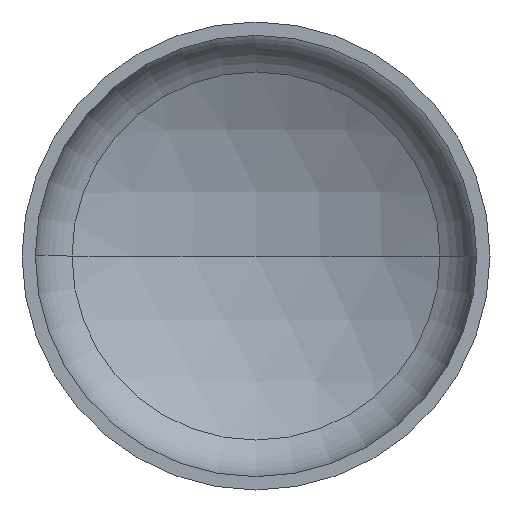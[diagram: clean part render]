
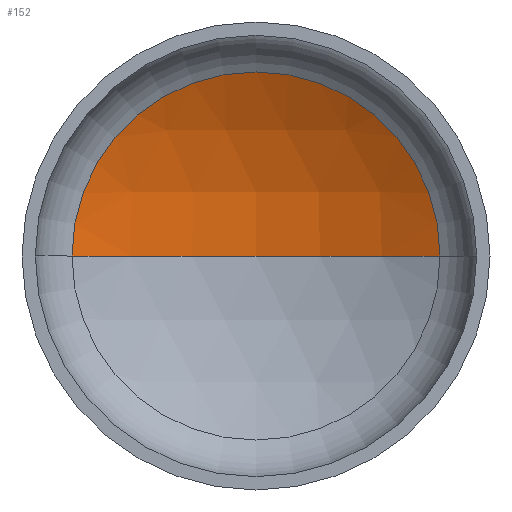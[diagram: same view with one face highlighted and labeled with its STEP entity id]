
A CAD part, front view. The second image highlights one B-rep face of the part: STEP entity #152.
In plain terms, the highlighted spherical face has radius 2080 mm.
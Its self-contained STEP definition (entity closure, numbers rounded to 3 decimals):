
#15 = AXIS2_PLACEMENT_3D ( 'NONE', #349, #216, #372 ) ;
#22 = AXIS2_PLACEMENT_3D ( 'NONE', #283, #137, #305 ) ;
#52 = AXIS2_PLACEMENT_3D ( 'NONE', #364, #230, #390 ) ;
#54 = AXIS2_PLACEMENT_3D ( 'NONE', #370, #233, #396 ) ;
#61 = FACE_OUTER_BOUND ( 'NONE', #116, .T. ) ;
#65 = VERTEX_POINT ( 'NONE', #180 ) ;
#70 = VERTEX_POINT ( 'NONE', #205 ) ;
#75 = ORIENTED_EDGE ( 'NONE', *, *, #327, .T. ) ;
#113 = ORIENTED_EDGE ( 'NONE', *, *, #340, .T. ) ;
#116 = EDGE_LOOP ( 'NONE', ( #128, #75, #113 ) ) ;
#126 = VERTEX_POINT ( 'NONE', #181 ) ;
#128 = ORIENTED_EDGE ( 'NONE', *, *, #333, .F. ) ;
#137 = DIRECTION ( 'NONE',  ( 0., 0., 1. ) ) ;
#152 = ADVANCED_FACE ( 'NONE', ( #61 ), #360, .F. ) ;
#180 = CARTESIAN_POINT ( 'NONE',  ( 0., 737.084, 0. ) ) ;
#181 = CARTESIAN_POINT ( 'NONE',  ( 1022.667, 468.313, 0. ) ) ;
#205 = CARTESIAN_POINT ( 'NONE',  ( -1022.667, 468.313, 0. ) ) ;
#216 = DIRECTION ( 'NONE',  ( 0., -1., 0. ) ) ;
#230 = DIRECTION ( 'NONE',  ( 0., 0., -1. ) ) ;
#233 = DIRECTION ( 'NONE',  ( 0., 0., -1. ) ) ;
#271 = CIRCLE ( 'NONE', #15, 1022.667 ) ;
#283 = CARTESIAN_POINT ( 'NONE',  ( 0., -1342.916, 0. ) ) ;
#305 = DIRECTION ( 'NONE',  ( 1., 0., 0. ) ) ;
#327 = EDGE_CURVE ( 'NONE', #65, #126, #336, .T. ) ;
#333 = EDGE_CURVE ( 'NONE', #65, #70, #342, .T. ) ;
#336 = CIRCLE ( 'NONE', #54, 2080. ) ;
#340 = EDGE_CURVE ( 'NONE', #126, #70, #271, .T. ) ;
#342 = CIRCLE ( 'NONE', #22, 2080. ) ;
#349 = CARTESIAN_POINT ( 'NONE',  ( 0., 468.313, 0. ) ) ;
#360 = SPHERICAL_SURFACE ( 'NONE', #52, 2080. ) ;
#364 = CARTESIAN_POINT ( 'NONE',  ( 0., -1342.916, 0. ) ) ;
#370 = CARTESIAN_POINT ( 'NONE',  ( 0., -1342.916, 0. ) ) ;
#372 = DIRECTION ( 'NONE',  ( 1., 0., 0. ) ) ;
#390 = DIRECTION ( 'NONE',  ( -1., 0., 0. ) ) ;
#396 = DIRECTION ( 'NONE',  ( -1., 0., 0. ) ) ;
